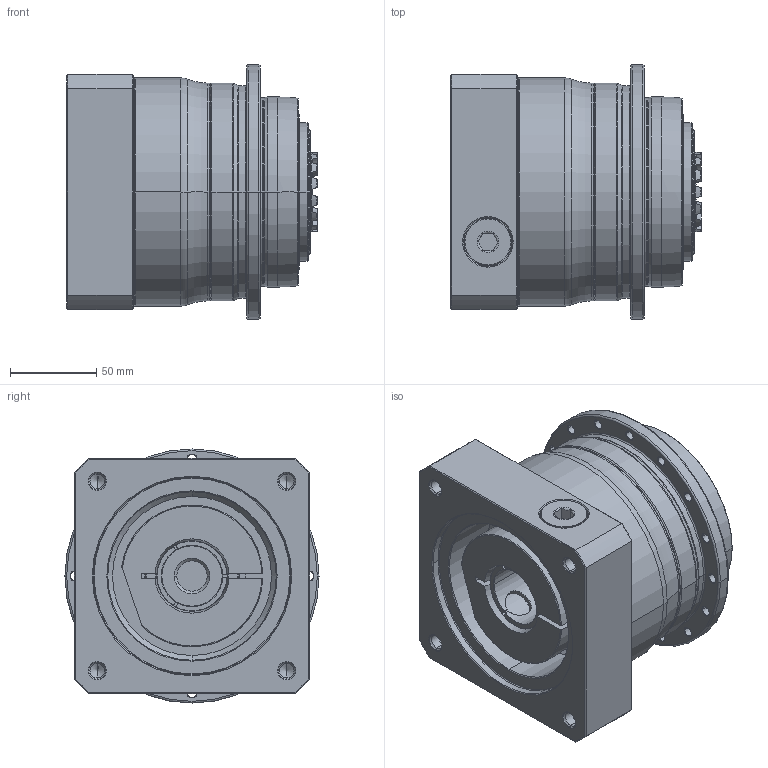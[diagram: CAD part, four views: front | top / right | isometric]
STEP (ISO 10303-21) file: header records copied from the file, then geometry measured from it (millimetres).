
FILE_DESCRIPTION((''),'2;1');
FILE_NAME('APC110_1ST_35-P0409800201_ASM','2018-06-11T',('d01226'),(''),'PRO/ENGINEER BY PARAMETRIC TECHNOLOGY CORPORATION, 2008410','PRO/ENGINEER BY PARAMETRIC TECHNOLOGY CORPORATION, 2008410','');
FILE_SCHEMA(('CONFIG_CONTROL_DESIGN'));
Length unit declared in the file: millimetre
Products named in the file (9): P0278400003; P03594C0103; P1318410401; P0503800012; P0912404001; P1211400001; P0409800201; 21711422019; APC110_1ST_35-P0409800201_ASM
Assembly tree (8 placements, depth 2):
  APC110_1ST_35-P0409800201_ASM
    P0278400003
    P03594C0103
    P1318410401
    P0503800012
    P0912404001
    P1211400001
    P0409800201
    21711422019
Bounding box: 144.9 x 147 x 147 mm (x, y, z)
Volume: 1640163.7 mm3; surface area: 271712.4 mm2
Topology: 9 solids, 20 shells, 620 faces, 1481 edges, 903 vertices
Faces by surface type: cylinder 196, cone 192, plane 120, torus 98, bspline 14
Entity records: 23227 total; most frequent: CARTESIAN_POINT 8480, DIRECTION 3297, ORIENTED_EDGE 2884, EDGE_CURVE 1463, AXIS2_PLACEMENT_3D 1432, VERTEX_POINT 903, CIRCLE 799, EDGE_LOOP 708
